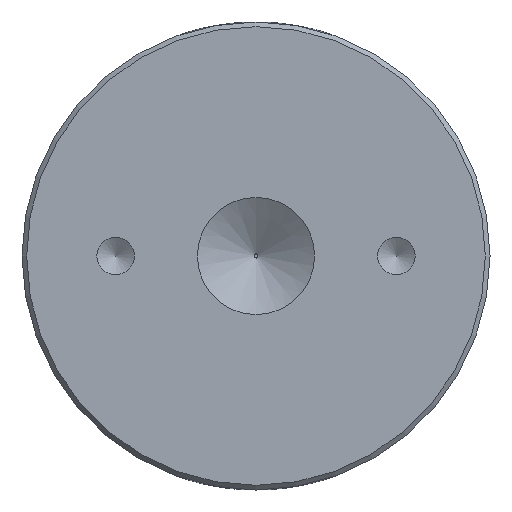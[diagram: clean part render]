
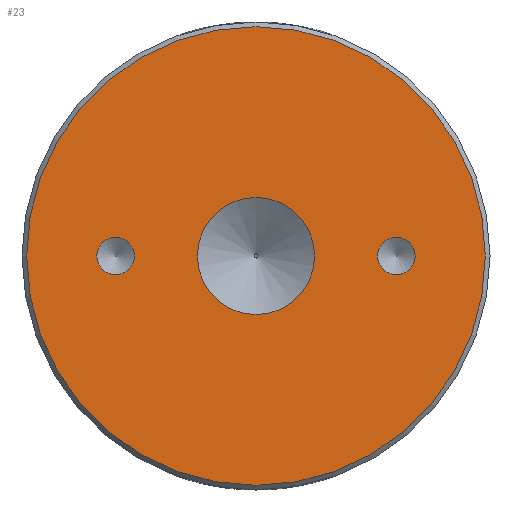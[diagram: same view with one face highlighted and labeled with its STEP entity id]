
A CAD part, front view. The second image highlights one B-rep face of the part: STEP entity #23.
In plain terms, the highlighted planar face has unit normal (0, -1, 0).
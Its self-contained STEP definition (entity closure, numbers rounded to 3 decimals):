
#23 = ADVANCED_FACE ( 'NONE', ( #318, #254, #468, #421 ), #260, .F. ) ;
#24 = EDGE_LOOP ( 'NONE', ( #237 ) ) ;
#25 = DIRECTION ( 'NONE',  ( 0., 0., -1. ) ) ;
#26 = CIRCLE ( 'NONE', #625, 0.8 ) ;
#45 = DIRECTION ( 'NONE',  ( 0., -1., 0. ) ) ;
#56 = AXIS2_PLACEMENT_3D ( 'NONE', #636, #370, #527 ) ;
#89 = VERTEX_POINT ( 'NONE', #91 ) ;
#91 = CARTESIAN_POINT ( 'NONE',  ( 0., -12.5, -2.5 ) ) ;
#132 = CARTESIAN_POINT ( 'NONE',  ( 0., -12.5, 9.8 ) ) ;
#136 = EDGE_LOOP ( 'NONE', ( #281 ) ) ;
#164 = EDGE_CURVE ( 'NONE', #181, #181, #26, .T. ) ;
#165 = ORIENTED_EDGE ( 'NONE', *, *, #664, .F. ) ;
#177 = CARTESIAN_POINT ( 'NONE',  ( -6., -12.5, 0. ) ) ;
#181 = VERTEX_POINT ( 'NONE', #297 ) ;
#200 = CARTESIAN_POINT ( 'NONE',  ( 0., -12.5, 0. ) ) ;
#203 = DIRECTION ( 'NONE',  ( 0., 0., 1. ) ) ;
#228 = CARTESIAN_POINT ( 'NONE',  ( 0., -12.5, 0. ) ) ;
#237 = ORIENTED_EDGE ( 'NONE', *, *, #612, .F. ) ;
#242 = ORIENTED_EDGE ( 'NONE', *, *, #164, .F. ) ;
#254 = FACE_BOUND ( 'NONE', #24, .T. ) ;
#260 = PLANE ( 'NONE',  #56 ) ;
#281 = ORIENTED_EDGE ( 'NONE', *, *, #432, .T. ) ;
#297 = CARTESIAN_POINT ( 'NONE',  ( 6., -12.5, -0.8 ) ) ;
#318 = FACE_BOUND ( 'NONE', #652, .T. ) ;
#321 = DIRECTION ( 'NONE',  ( 0., 0., -1. ) ) ;
#370 = DIRECTION ( 'NONE',  ( 0., 1., 0. ) ) ;
#404 = VERTEX_POINT ( 'NONE', #132 ) ;
#421 = FACE_BOUND ( 'NONE', #649, .T. ) ;
#432 = EDGE_CURVE ( 'NONE', #404, #404, #616, .T. ) ;
#439 = DIRECTION ( 'NONE',  ( 0., -1., 0. ) ) ;
#447 = AXIS2_PLACEMENT_3D ( 'NONE', #177, #439, #545 ) ;
#468 = FACE_OUTER_BOUND ( 'NONE', #136, .T. ) ;
#479 = DIRECTION ( 'NONE',  ( 0., -1., 0. ) ) ;
#488 = DIRECTION ( 'NONE',  ( 0., -1., 0. ) ) ;
#489 = AXIS2_PLACEMENT_3D ( 'NONE', #200, #45, #203 ) ;
#527 = DIRECTION ( 'NONE',  ( 0., 0., 1. ) ) ;
#545 = DIRECTION ( 'NONE',  ( 0., 0., -1. ) ) ;
#561 = CARTESIAN_POINT ( 'NONE',  ( -6., -12.5, -0.8 ) ) ;
#574 = CIRCLE ( 'NONE', #674, 2.5 ) ;
#590 = CIRCLE ( 'NONE', #447, 0.8 ) ;
#591 = CARTESIAN_POINT ( 'NONE',  ( 6., -12.5, 0. ) ) ;
#612 = EDGE_CURVE ( 'NONE', #621, #621, #590, .T. ) ;
#616 = CIRCLE ( 'NONE', #489, 9.8 ) ;
#621 = VERTEX_POINT ( 'NONE', #561 ) ;
#625 = AXIS2_PLACEMENT_3D ( 'NONE', #591, #479, #321 ) ;
#636 = CARTESIAN_POINT ( 'NONE',  ( 0., -12.5, 0. ) ) ;
#649 = EDGE_LOOP ( 'NONE', ( #165 ) ) ;
#652 = EDGE_LOOP ( 'NONE', ( #242 ) ) ;
#664 = EDGE_CURVE ( 'NONE', #89, #89, #574, .T. ) ;
#674 = AXIS2_PLACEMENT_3D ( 'NONE', #228, #488, #25 ) ;
